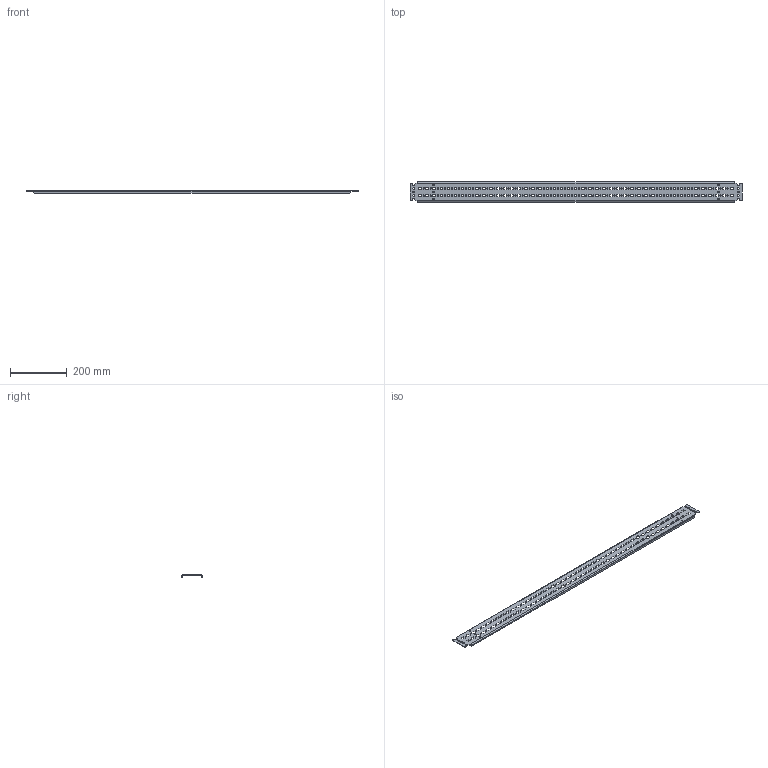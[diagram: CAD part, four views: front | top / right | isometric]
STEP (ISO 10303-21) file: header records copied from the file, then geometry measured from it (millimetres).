
FILE_DESCRIPTION (( 'STEP AP214' ), '1' );
FILE_NAME ('MG 120.06 R Ðåéêà ìîíòàæíàÿ.STEP', '2022-09-07T09:02:42', ( '' ), ( '' ), 'SwSTEP 2.0', 'SolidWorks 2018', '' );
FILE_SCHEMA (( 'AUTOMOTIVE_DESIGN' ));
Length unit declared in the file: millimetre
Products named in the file (1): MG 120.06 R Ðåéêà ìîíòàæíàÿ
Bounding box: 1175 x 70.91 x 9.3 mm (x, y, z)
Volume: 173309.3 mm3; surface area: 187733.5 mm2
Topology: 1 solids, 1 shells, 978 faces, 2912 edges, 1936 vertices
Faces by surface type: cylinder 568, plane 410
Entity records: 34018 total; most frequent: DIRECTION 6006, CARTESIAN_POINT 5827, ORIENTED_EDGE 5824, EDGE_CURVE 2912, AXIS2_PLACEMENT_3D 2115, VERTEX_POINT 1936, LINE 1776, VECTOR 1776
